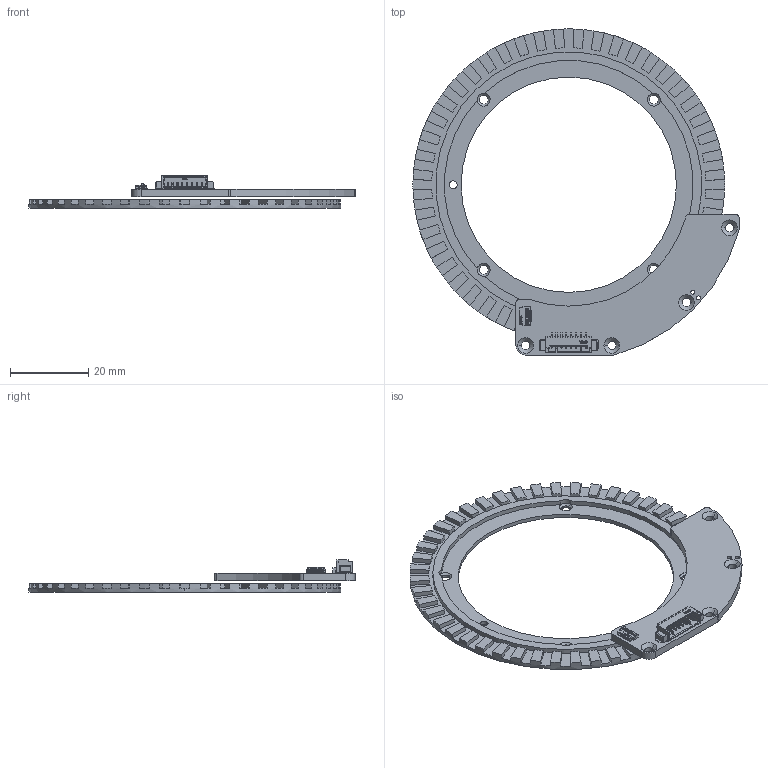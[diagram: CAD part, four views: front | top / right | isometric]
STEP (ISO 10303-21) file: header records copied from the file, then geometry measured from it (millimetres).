
FILE_DESCRIPTION((''),'2;1');
FILE_NAME('SAB080_REV_1_8_ASM','2025-05-06T',('ol'),(''),'PRO/ENGINEER BY PARAMETRIC TECHNOLOGY CORPORATION, 2017170','PRO/ENGINEER BY PARAMETRIC TECHNOLOGY CORPORATION, 2017170','');
FILE_SCHEMA(('CONFIG_CONTROL_DESIGN'));
Products named in the file (72): BOARD_1_AF0; MANIFOLD_SOLID_BREP_191683_1; MANIFOLD_SOLID_BREP_191187_1; MANIFOLD_SOLID_BREP_190655_1; MANIFOLD_SOLID_BREP_190241_1; MANIFOLD_SOLID_BREP_189698_1; MANIFOLD_SOLID_BREP_188873_1; MANIFOLD_SOLID_BREP_188041_1; MANIFOLD_SOLID_BREP_187627_1; MANIFOLD_SOLID_BREP_187131_1; MANIFOLD_SOLID_BREP_186599_1; MANIFOLD_SOLID_BREP_186185_1; MANIFOLD_SOLID_BREP_185633_1; MANIFOLD_SOLID_BREP_185417_1; MANIFOLD_SOLID_BREP_185265_1; MANIFOLD_SOLID_BREP_185113_1; MANIFOLD_SOLID_BREP_184961_1; MANIFOLD_SOLID_BREP_184809_1; MANIFOLD_SOLID_BREP_184657_1; MANIFOLD_SOLID_BREP_184472_1; MANIFOLD_SOLID_BREP_184287_1; MANIFOLD_SOLID_BREP_184102_1; MANIFOLD_SOLID_BREP_183917_1; MANIFOLD_SOLID_BREP_183732_1; MANIFOLD_SOLID_BREP_183582_1; MANIFOLD_SOLID_BREP_183432_1; MANIFOLD_SOLID_BREP_183282_1; MANIFOLD_SOLID_BREP_183132_1; MANIFOLD_SOLID_BREP_182982_1; MANIFOLD_SOLID_BREP_182826_1; MANIFOLD_SOLID_BREP_182670_1; MANIFOLD_SOLID_BREP_182514_1; MANIFOLD_SOLID_BREP_182358_1; MANIFOLD_SOLID_BREP_182202_1; MANIFOLD_SOLID_BREP_182052_1; MANIFOLD_SOLID_BREP_181902_1; MANIFOLD_SOLID_BREP_181752_1; MANIFOLD_SOLID_BREP_181602_1; MANIFOLD_SOLID_BREP_181452_1; MANIFOLD_SOLID_BREP_181170_1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
Assembly tree (71 placements, depth 6):
  SAB080_REV_1_8_ASM
    SAB080_REV_1_8_ASM_ASM
      PCB_ASM_11_AF0_ASM
        BOARD_1_AF0
        FPC4_ASM_1_ASM
          FPC1_ASM_1_ASM
            MANIFOLD_SOLID_BREP_191683_1
            MANIFOLD_SOLID_BREP_191187_1
            MANIFOLD_SOLID_BREP_190655_1
            MANIFOLD_SOLID_BREP_190241_1
            MANIFOLD_SOLID_BREP_189698_1
            MANIFOLD_SOLID_BREP_188873_1
            MANIFOLD_SOLID_BREP_188041_1
            MANIFOLD_SOLID_BREP_187627_1
            MANIFOLD_SOLID_BREP_187131_1
            MANIFOLD_SOLID_BREP_186599_1
            MANIFOLD_SOLID_BREP_186185_1
            MANIFOLD_SOLID_BREP_185633_1
            MANIFOLD_SOLID_BREP_185417_1
            MANIFOLD_SOLID_BREP_185265_1
            MANIFOLD_SOLID_BREP_185113_1
            MANIFOLD_SOLID_BREP_184961_1
            MANIFOLD_SOLID_BREP_184809_1
            MANIFOLD_SOLID_BREP_184657_1
            MANIFOLD_SOLID_BREP_184472_1
            MANIFOLD_SOLID_BREP_184287_1
            MANIFOLD_SOLID_BREP_184102_1
            MANIFOLD_SOLID_BREP_183917_1
            MANIFOLD_SOLID_BREP_183732_1
            MANIFOLD_SOLID_BREP_183582_1
            MANIFOLD_SOLID_BREP_183432_1
            MANIFOLD_SOLID_BREP_183282_1
            MANIFOLD_SOLID_BREP_183132_1
            MANIFOLD_SOLID_BREP_182982_1
            MANIFOLD_SOLID_BREP_182826_1
            MANIFOLD_SOLID_BREP_182670_1
            MANIFOLD_SOLID_BREP_182514_1
            MANIFOLD_SOLID_BREP_182358_1
            MANIFOLD_SOLID_BREP_182202_1
            MANIFOLD_SOLID_BREP_182052_1
            MANIFOLD_SOLID_BREP_181902_1
            MANIFOLD_SOLID_BREP_181752_1
            MANIFOLD_SOLID_BREP_181602_1
            MANIFOLD_SOLID_BREP_181452_1
            MANIFOLD_SOLID_BREP_181170_1
            MANIFOLD_SOLID_BREP_180888_1
            MANIFOLD_SOLID_BREP_175654_1
            MANIFOLD_SOLID_BREP_175469_1
            MANIFOLD_SOLID_BREP_175317_1
            MANIFOLD_SOLID_BREP_175167_1
            MANIFOLD_SOLID_BREP_174687_1
            MANIFOLD_SOLID_BREP_174531_1
            MANIFOLD_SOLID_BREP_174381_1
        CN4_ASM_1_ASM
          CN1_ASM_1_ASM
            MANIFOLD_SOLID_BREP_72793_1
            MANIFOLD_SOLID_BREP_72297_1
            MANIFOLD_SOLID_BREP_71765_1
            MANIFOLD_SOLID_BREP_71351_1
            MANIFOLD_SOLID_BREP_70808_1
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Bounding box: 83.3 x 83.3 x 8.25 mm (x, y, z)
Volume: 5625.5 mm3; surface area: 9542.6 mm2
Topology: 65 solids, 65 shells, 1679 faces, 4459 edges, 2939 vertices
Faces by surface type: plane 1155, cylinder 252, extrusion 250, cone 16, bspline 4, sphere 2
Entity records: 63241 total; most frequent: CARTESIAN_POINT 20721, ORIENTED_EDGE 8914, DIRECTION 7740, EDGE_CURVE 4457, VECTOR 3618, LINE 3368, VERTEX_POINT 2939, AXIS2_PLACEMENT_3D 2061
